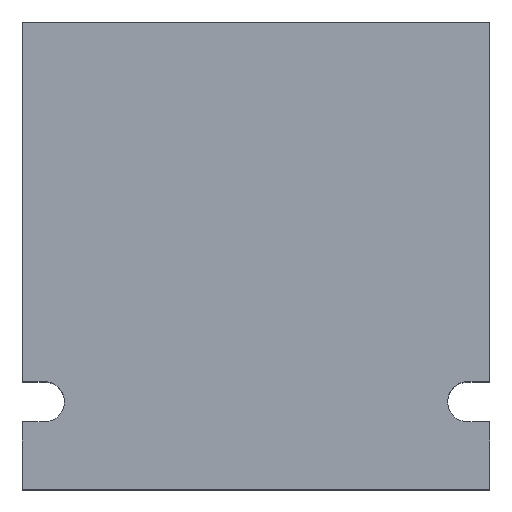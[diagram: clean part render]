
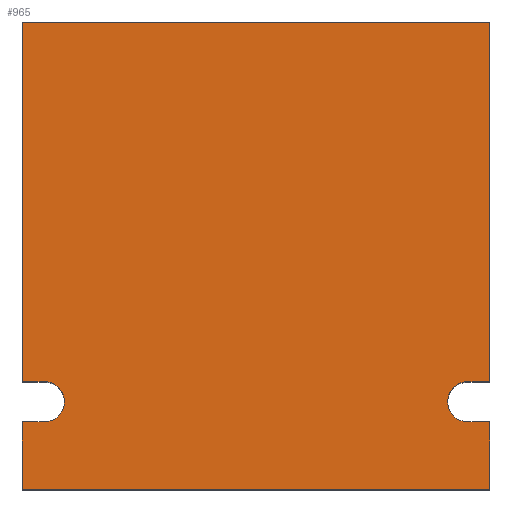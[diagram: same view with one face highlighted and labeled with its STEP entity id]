
A CAD part, top view. The second image highlights one B-rep face of the part: STEP entity #965.
In plain terms, the highlighted planar face has unit normal (0, 0, 1).
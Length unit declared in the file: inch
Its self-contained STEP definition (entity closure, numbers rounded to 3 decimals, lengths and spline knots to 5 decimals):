
#1=DIRECTION('',(-1.,0.,0.));
#2=VECTOR('',#1,4.);
#3=CARTESIAN_POINT('',(4.,0.,0.));
#4=LINE('',#3,#2);
#27=DIRECTION('',(1.,0.,0.));
#28=VECTOR('',#27,0.188);
#29=CARTESIAN_POINT('',(0.,-3.422,0.));
#30=LINE('',#29,#28);
#31=CARTESIAN_POINT('',(0.188,-3.25,0.));
#32=DIRECTION('',(0.,0.,1.));
#33=DIRECTION('',(0.,-1.,0.));
#34=AXIS2_PLACEMENT_3D('',#31,#32,#33);
#36=DIRECTION('',(1.,0.,0.));
#37=VECTOR('',#36,0.188);
#38=CARTESIAN_POINT('',(0.,-3.078,0.));
#39=LINE('',#38,#37);
#40=DIRECTION('',(0.,1.,0.));
#41=VECTOR('',#40,3.078);
#42=CARTESIAN_POINT('',(0.,-3.078,0.));
#43=LINE('',#42,#41);
#44=DIRECTION('',(-1.,0.,0.));
#45=VECTOR('',#44,0.187);
#46=CARTESIAN_POINT('',(4.,-3.078,0.));
#47=LINE('',#46,#45);
#48=CARTESIAN_POINT('',(3.813,-3.25,0.));
#49=DIRECTION('',(0.,0.,1.));
#50=DIRECTION('',(0.,1.,0.));
#51=AXIS2_PLACEMENT_3D('',#48,#49,#50);
#53=DIRECTION('',(-1.,0.,0.));
#54=VECTOR('',#53,0.187);
#55=CARTESIAN_POINT('',(4.,-3.422,0.));
#56=LINE('',#55,#54);
#57=DIRECTION('',(0.,1.,0.));
#58=VECTOR('',#57,0.578);
#59=CARTESIAN_POINT('',(0.,-4.,0.));
#60=LINE('',#59,#58);
#77=DIRECTION('',(-1.,0.,0.));
#78=VECTOR('',#77,4.);
#79=CARTESIAN_POINT('',(4.,-4.,0.));
#80=LINE('',#79,#78);
#107=DIRECTION('',(0.,1.,0.));
#108=VECTOR('',#107,0.578);
#109=CARTESIAN_POINT('',(4.,-4.,0.));
#110=LINE('',#109,#108);
#115=DIRECTION('',(0.,1.,0.));
#116=VECTOR('',#115,3.078);
#117=CARTESIAN_POINT('',(4.,-3.078,0.));
#118=LINE('',#117,#116);
#731=CARTESIAN_POINT('',(4.,0.,0.));
#732=CARTESIAN_POINT('',(0.,0.,0.));
#733=VERTEX_POINT('',#731);
#734=VERTEX_POINT('',#732);
#739=CARTESIAN_POINT('',(4.,-4.,0.));
#740=CARTESIAN_POINT('',(0.,-4.,0.));
#741=VERTEX_POINT('',#739);
#742=VERTEX_POINT('',#740);
#747=CARTESIAN_POINT('',(0.,-3.422,0.));
#748=CARTESIAN_POINT('',(0.188,-3.422,0.));
#749=VERTEX_POINT('',#747);
#750=VERTEX_POINT('',#748);
#751=CARTESIAN_POINT('',(0.188,-3.078,0.));
#752=VERTEX_POINT('',#751);
#753=CARTESIAN_POINT('',(0.,-3.078,0.));
#754=VERTEX_POINT('',#753);
#755=CARTESIAN_POINT('',(3.813,-3.078,0.));
#756=CARTESIAN_POINT('',(3.813,-3.422,0.));
#757=VERTEX_POINT('',#755);
#758=VERTEX_POINT('',#756);
#759=CARTESIAN_POINT('',(4.,-3.422,0.));
#760=VERTEX_POINT('',#759);
#761=CARTESIAN_POINT('',(4.,-3.078,0.));
#762=VERTEX_POINT('',#761);
#935=CARTESIAN_POINT('',(0.,0.,0.));
#936=DIRECTION('',(0.,0.,1.));
#937=DIRECTION('',(1.,0.,0.));
#938=AXIS2_PLACEMENT_3D('',#935,#936,#937);
#939=PLANE('',#938);
#941=ORIENTED_EDGE('',*,*,#940,.T.);
#943=ORIENTED_EDGE('',*,*,#942,.T.);
#945=ORIENTED_EDGE('',*,*,#944,.F.);
#947=ORIENTED_EDGE('',*,*,#946,.T.);
#948=ORIENTED_EDGE('',*,*,#918,.F.);
#950=ORIENTED_EDGE('',*,*,#949,.F.);
#952=ORIENTED_EDGE('',*,*,#951,.T.);
#954=ORIENTED_EDGE('',*,*,#953,.T.);
#956=ORIENTED_EDGE('',*,*,#955,.F.);
#958=ORIENTED_EDGE('',*,*,#957,.F.);
#960=ORIENTED_EDGE('',*,*,#959,.T.);
#962=ORIENTED_EDGE('',*,*,#961,.T.);
#963=EDGE_LOOP('',(#941,#943,#945,#947,#948,#950,#952,#954,#956,#958,#960,
#962));
#964=FACE_OUTER_BOUND('',#963,.F.);
#965=ADVANCED_FACE('',(#964),#939,.T.);
#35=CIRCLE('',#34,0.172);
#52=CIRCLE('',#51,0.172);
#918=EDGE_CURVE('',#733,#734,#4,.T.);
#940=EDGE_CURVE('',#749,#750,#30,.T.);
#942=EDGE_CURVE('',#750,#752,#35,.T.);
#944=EDGE_CURVE('',#754,#752,#39,.T.);
#946=EDGE_CURVE('',#754,#734,#43,.T.);
#949=EDGE_CURVE('',#762,#733,#118,.T.);
#951=EDGE_CURVE('',#762,#757,#47,.T.);
#953=EDGE_CURVE('',#757,#758,#52,.T.);
#955=EDGE_CURVE('',#760,#758,#56,.T.);
#957=EDGE_CURVE('',#741,#760,#110,.T.);
#959=EDGE_CURVE('',#741,#742,#80,.T.);
#961=EDGE_CURVE('',#742,#749,#60,.T.);
